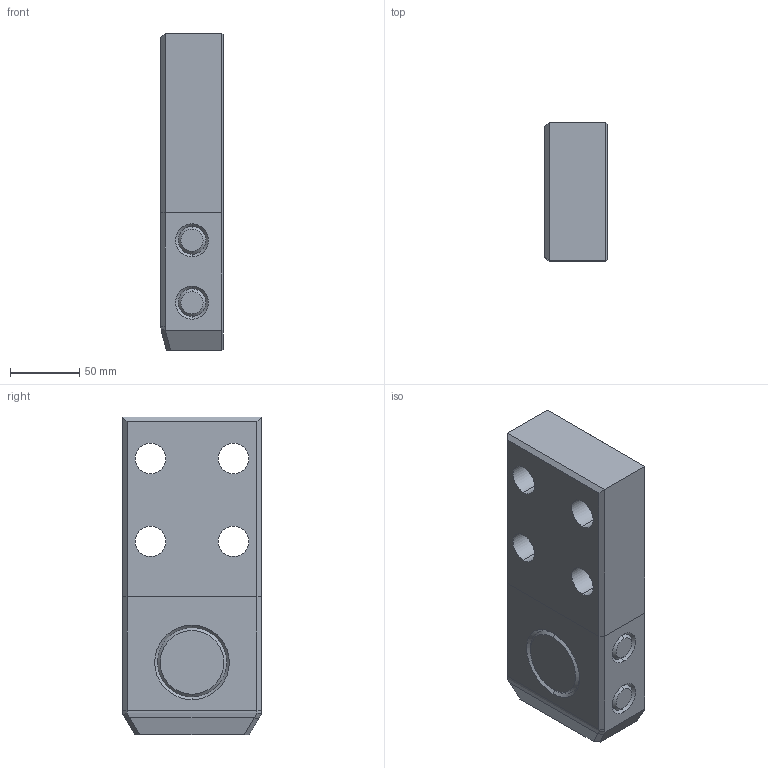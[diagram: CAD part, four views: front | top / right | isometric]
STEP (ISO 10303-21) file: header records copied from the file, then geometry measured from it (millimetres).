
FILE_DESCRIPTION((''),'2;1');
FILE_NAME('','2010-08-30T19:10:45+09:00',('misumi'),(''),'M/STEP i/f 1R2-14','CADmeister v5.1','');
FILE_SCHEMA(('AUTOMOTIVE_DESIGN'));
Length unit declared in the file: millimetre
Products named in the file (1): OGZ100-230
Bounding box: 45 x 100 x 230 mm (x, y, z)
Volume: 912864.2 mm3; surface area: 87095.8 mm2
Topology: 1 solids, 1 shells, 78 faces, 172 edges, 106 vertices
Faces by surface type: plane 35, cone 20, cylinder 19, bspline 4
Entity records: 3078 total; most frequent: CARTESIAN_POINT 1269, DIRECTION 354, ORIENTED_EDGE 344, EDGE_CURVE 172, AXIS2_PLACEMENT_3D 131, VERTEX_POINT 106, EDGE_LOOP 96, LINE 92
